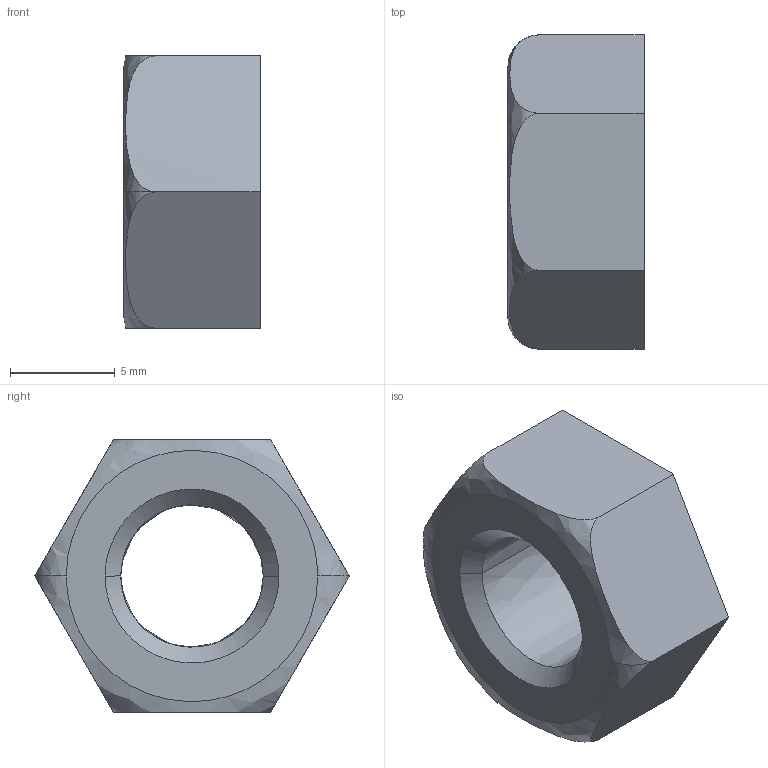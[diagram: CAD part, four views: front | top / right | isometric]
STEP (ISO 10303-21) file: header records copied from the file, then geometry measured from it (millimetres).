
FILE_DESCRIPTION (( 'STEP AP214' ), '1' );
FILE_NAME ('HP-100WJ-17.STEP', '2020-07-04T07:59:31', ( '' ), ( '' ), 'SwSTEP 2.0', 'SolidWorks 2010', '' );
FILE_SCHEMA (( 'AUTOMOTIVE_DESIGN' ));
Length unit declared in the file: millimetre
Products named in the file (1): HP-100WJ-17
Bounding box: 6.5 x 15 x 13 mm (x, y, z)
Volume: 704.5 mm3; surface area: 631.8 mm2
Topology: 1 solids, 1 shells, 14 faces, 37 edges, 25 vertices
Faces by surface type: plane 8, bspline 6
Entity records: 1828 total; most frequent: CARTESIAN_POINT 1528, ORIENTED_EDGE 74, EDGE_CURVE 37, B_SPLINE_CURVE_WITH_KNOTS 36, VERTEX_POINT 25, DIRECTION 19, EDGE_LOOP 16, ADVANCED_FACE 14
